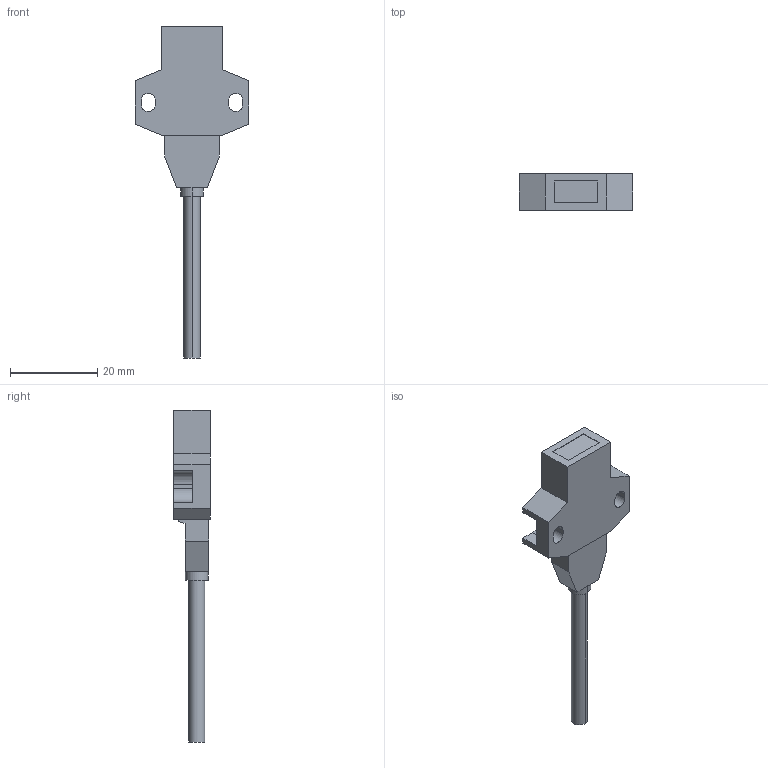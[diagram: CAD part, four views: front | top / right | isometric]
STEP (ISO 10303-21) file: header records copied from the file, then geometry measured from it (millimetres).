
FILE_DESCRIPTION (( 'STEP AP203' ), '1' );
FILE_NAME ('PM2-LH10-C1.STEP', '2005-09-06T01:58:22', ( '' ), ( '' ), 'SwSTEP 2.0', 'SolidWorks 2004073', '' );
FILE_SCHEMA (( 'CONFIG_CONTROL_DESIGN' ));
Length unit declared in the file: millimetre
Products named in the file (1): PM2-LH10-C1
Bounding box: 26 x 8.4 x 76 mm (x, y, z)
Volume: 4910.8 mm3; surface area: 2754.5 mm2
Topology: 1 solids, 1 shells, 55 faces, 144 edges, 96 vertices
Faces by surface type: plane 41, cylinder 14
Entity records: 1771 total; most frequent: CARTESIAN_POINT 296, ORIENTED_EDGE 288, DIRECTION 284, EDGE_CURVE 144, VECTOR 116, LINE 116, VERTEX_POINT 96, AXIS2_PLACEMENT_3D 84
